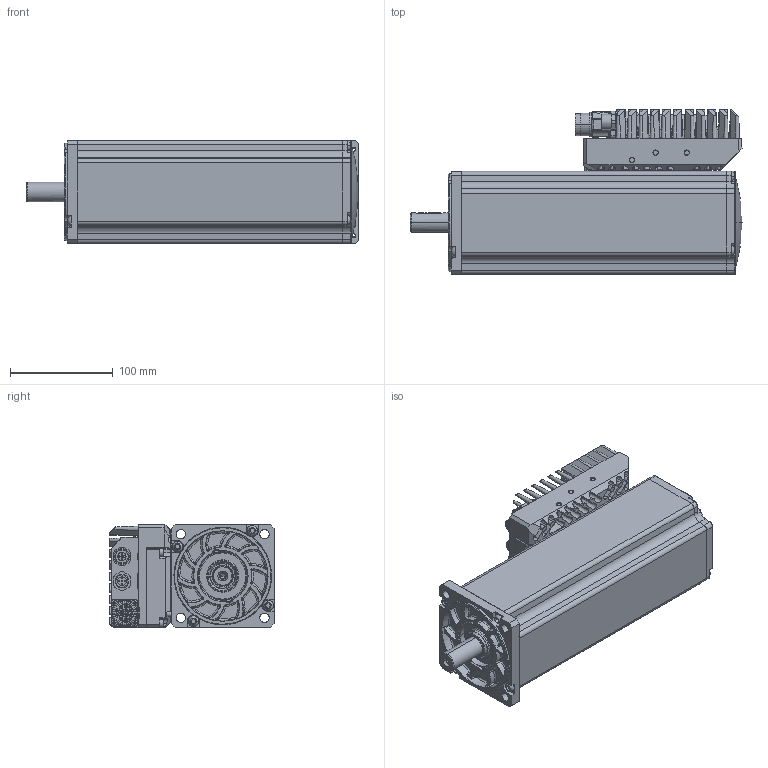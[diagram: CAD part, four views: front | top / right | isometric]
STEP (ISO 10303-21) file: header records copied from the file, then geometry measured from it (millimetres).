
FILE_DESCRIPTION((''),'2;1');
FILE_NAME('60820N-0_SW0002','2015-09-09T',('hegenwang'),(''),'PRO/ENGINEER BY PARAMETRIC TECHNOLOGY CORPORATION, 2010430','PRO/ENGINEER BY PARAMETRIC TECHNOLOGY CORPORATION, 2010430','');
FILE_SCHEMA(('AUTOMOTIVE_DESIGN_CC2 { 1 2 10303 214 -1 1 5 2 }'));
Products named in the file (1): 60820N-0_SW0002
Bounding box: 323 x 159.8 x 100 mm (x, y, z)
Surface area: 260802.2 mm2 (no closed solid volume)
Topology: 0 solids, 112 shells, 1781 faces, 5398 edges, 3763 vertices
Faces by surface type: plane 794, cone 381, cylinder 321, bspline 95, torus 87, sphere 68, extrusion 33, revolution 2
Entity records: 98043 total; most frequent: CARTESIAN_POINT 24794, DIRECTION 9729, ORIENTED_EDGE 9434, PRESENTATION_STYLE_ASSIGNMENT 6701, STYLED_ITEM 5427, CURVE_STYLE 5389, EDGE_CURVE 5358, VERTEX_POINT 3763
